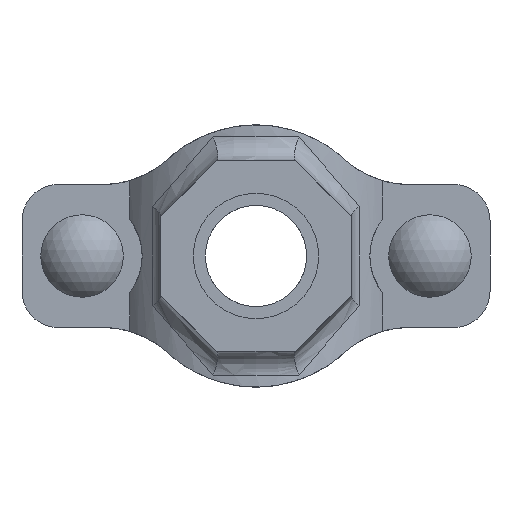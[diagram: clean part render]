
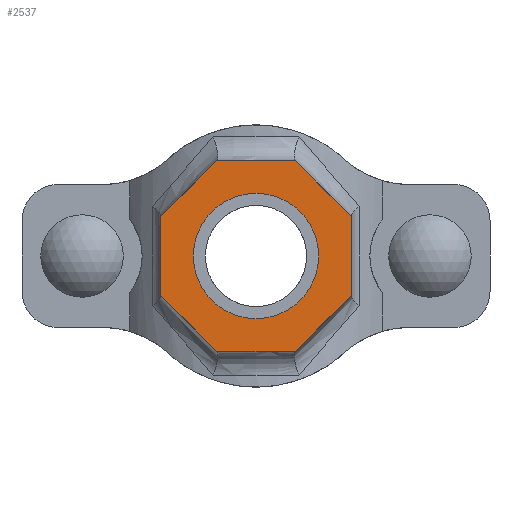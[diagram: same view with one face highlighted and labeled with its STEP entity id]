
A CAD part, front view. The second image highlights one B-rep face of the part: STEP entity #2537.
In plain terms, the highlighted planar face has unit normal (0, -1, 0) as drawn and (0, 1, 0) by its records, which use the part's own axes.
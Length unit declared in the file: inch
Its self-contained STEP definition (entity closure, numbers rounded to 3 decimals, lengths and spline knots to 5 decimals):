
#186=FACE_BOUND('',#457,.T.);
#305=FACE_OUTER_BOUND('',#456,.T.);
#456=EDGE_LOOP('',(#2126,#2127,#2128,#2129,#2130,#2131,#2132,#2133));
#457=EDGE_LOOP('',(#2134));
#594=LINE('',#4593,#780);
#597=LINE('',#4598,#783);
#599=LINE('',#4602,#785);
#601=LINE('',#4606,#787);
#637=LINE('',#4979,#823);
#639=LINE('',#4983,#825);
#641=LINE('',#4987,#827);
#643=LINE('',#4990,#829);
#780=VECTOR('',#3278,0.3937);
#783=VECTOR('',#3283,0.3937);
#785=VECTOR('',#3287,0.3937);
#787=VECTOR('',#3291,0.3937);
#823=VECTOR('',#3415,0.3937);
#825=VECTOR('',#3419,0.3937);
#827=VECTOR('',#3423,0.3937);
#829=VECTOR('',#3427,0.3937);
#915=CIRCLE('',#2798,0.6575);
#1097=VERTEX_POINT('',#4590);
#1098=VERTEX_POINT('',#4592);
#1099=VERTEX_POINT('',#4596);
#1100=VERTEX_POINT('',#4600);
#1101=VERTEX_POINT('',#4604);
#1132=VERTEX_POINT('',#4828);
#1156=VERTEX_POINT('',#4978);
#1157=VERTEX_POINT('',#4982);
#1158=VERTEX_POINT('',#4986);
#1408=EDGE_CURVE('',#1098,#1097,#594,.T.);
#1411=EDGE_CURVE('',#1097,#1099,#597,.T.);
#1413=EDGE_CURVE('',#1099,#1100,#599,.T.);
#1415=EDGE_CURVE('',#1100,#1101,#601,.T.);
#1457=EDGE_CURVE('',#1132,#1132,#915,.T.);
#1489=EDGE_CURVE('',#1156,#1098,#637,.T.);
#1491=EDGE_CURVE('',#1157,#1156,#639,.T.);
#1493=EDGE_CURVE('',#1158,#1157,#641,.T.);
#1495=EDGE_CURVE('',#1101,#1158,#643,.T.);
#2126=ORIENTED_EDGE('',*,*,#1495,.T.);
#2127=ORIENTED_EDGE('',*,*,#1493,.T.);
#2128=ORIENTED_EDGE('',*,*,#1491,.T.);
#2129=ORIENTED_EDGE('',*,*,#1489,.T.);
#2130=ORIENTED_EDGE('',*,*,#1408,.T.);
#2131=ORIENTED_EDGE('',*,*,#1411,.T.);
#2132=ORIENTED_EDGE('',*,*,#1413,.T.);
#2133=ORIENTED_EDGE('',*,*,#1415,.T.);
#2134=ORIENTED_EDGE('',*,*,#1457,.T.);
#2278=PLANE('',#2821);
#2537=ADVANCED_FACE('',(#305,#186),#2278,.T.);
#2798=AXIS2_PLACEMENT_3D('',#4829,#3361,#3362);
#2821=AXIS2_PLACEMENT_3D('',#4991,#3428,#3429);
#3278=DIRECTION('',(0.,0.,1.));
#3283=DIRECTION('',(0.707,0.,0.707));
#3287=DIRECTION('',(1.,0.,0.));
#3291=DIRECTION('',(0.707,0.,-0.707));
#3361=DIRECTION('center_axis',(0.,-1.,0.));
#3362=DIRECTION('ref_axis',(-1.,0.,0.));
#3415=DIRECTION('',(-0.707,0.,0.707));
#3419=DIRECTION('',(-1.,0.,0.));
#3423=DIRECTION('',(-0.707,0.,-0.707));
#3427=DIRECTION('',(0.,0.,-1.));
#3428=DIRECTION('center_axis',(0.,1.,0.));
#3429=DIRECTION('ref_axis',(0.,0.,1.));
#4590=CARTESIAN_POINT('',(-1.,2.53,0.41421));
#4592=CARTESIAN_POINT('',(-1.,2.53,-0.41421));
#4593=CARTESIAN_POINT('',(-1.,2.53,0.41421));
#4596=CARTESIAN_POINT('',(-0.41421,2.53,1.));
#4598=CARTESIAN_POINT('',(-0.41421,2.53,1.));
#4600=CARTESIAN_POINT('',(0.41421,2.53,1.));
#4602=CARTESIAN_POINT('',(0.41421,2.53,1.));
#4604=CARTESIAN_POINT('',(1.,2.53,0.41421));
#4606=CARTESIAN_POINT('',(1.,2.53,0.41421));
#4828=CARTESIAN_POINT('',(0.6575,2.53,0.));
#4829=CARTESIAN_POINT('Origin',(0.,2.53,0.));
#4978=CARTESIAN_POINT('',(-0.41421,2.53,-1.));
#4979=CARTESIAN_POINT('',(-1.,2.53,-0.41421));
#4982=CARTESIAN_POINT('',(0.41421,2.53,-1.));
#4983=CARTESIAN_POINT('',(-0.41421,2.53,-1.));
#4986=CARTESIAN_POINT('',(1.,2.53,-0.41421));
#4987=CARTESIAN_POINT('',(0.41421,2.53,-1.));
#4990=CARTESIAN_POINT('',(1.,2.53,-0.41421));
#4991=CARTESIAN_POINT('Origin',(0.,2.53,0.));
